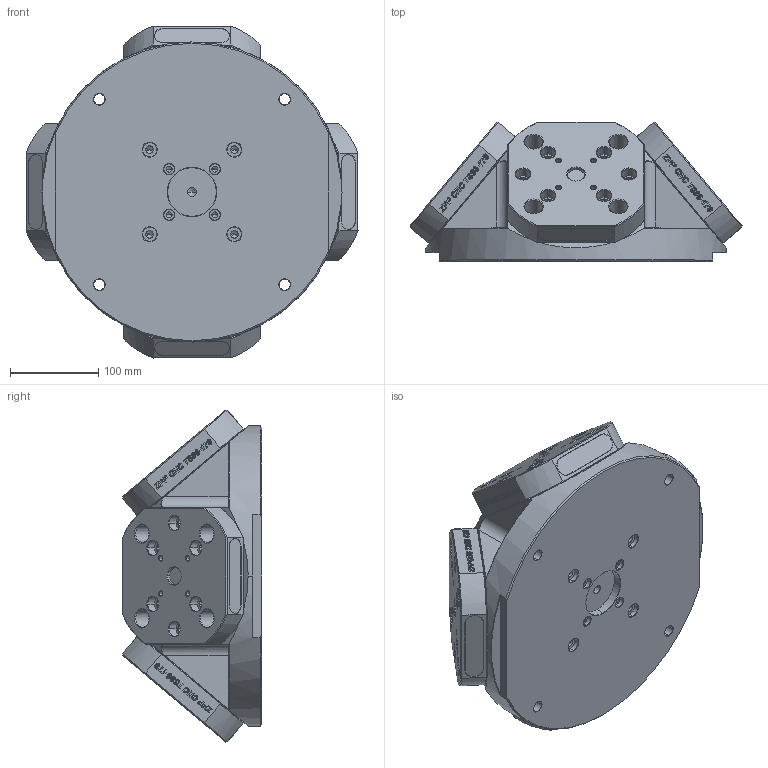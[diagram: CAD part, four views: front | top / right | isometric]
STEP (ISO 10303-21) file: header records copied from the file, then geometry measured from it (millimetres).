
FILE_DESCRIPTION((''),'2;1');
FILE_NAME('TS96-4PY_ASM','2025-05-06T14:48:26',('XF'),(''),'CREO PARAMETRIC BY PTC INC, 2023073','CREO PARAMETRIC BY PTC INC, 2023073','');
FILE_SCHEMA(('CONFIG_CONTROL_DESIGN'));
Length unit declared in the file: millimetre
Products named in the file (33): TS96-4PY_27_1; TS96-4PY_27_2; TS96-4PY_27_3; TS96-4PY_27_4; TS96-4PY_27_5; TS96-4PY_27_6; TS96-4PY_27_7; TS96-4PY_27_8; TS96-4PY_27_9; TS96-4PY_27_10; TS96-4PY_27_11; TS96-4PY_27_12; TS96-4PY_27_13; TS96-4PY_27_14; TS96-4PY_27_15; TS96-4PY_27_16; TS96-4PY_27_17; TS96-4PY_27_18; TS96-4PY_27_19; TS96-4PY_27_20; TS96-4PY_27_21; TS96-4PY_27_22; TS96-4PY_27_23; TS96-4PY_27_24; TS96-4PY_27_25; TS96-4PY_27_26; TS96-4PY_27_27; TS96-4PY_27_28; TS96-4PY_27_29; TS96-4PY_27_ASM; ASM0002_ASM; TS96-178; TS96-4PY_ASM
Assembly tree (35 placements, depth 4):
  TS96-4PY_ASM
    ASM0002_ASM
      TS96-4PY_27_ASM
        TS96-4PY_27_1
        TS96-4PY_27_2
        TS96-4PY_27_3
        TS96-4PY_27_4
        TS96-4PY_27_5
        TS96-4PY_27_6
        TS96-4PY_27_7
        TS96-4PY_27_8
        TS96-4PY_27_9
        TS96-4PY_27_10
        TS96-4PY_27_11
        TS96-4PY_27_12
        TS96-4PY_27_13
        TS96-4PY_27_14
        TS96-4PY_27_15
        TS96-4PY_27_16
        TS96-4PY_27_17
        TS96-4PY_27_18
        TS96-4PY_27_19
        TS96-4PY_27_20
        TS96-4PY_27_21
        TS96-4PY_27_22
        TS96-4PY_27_23
        TS96-4PY_27_24
        TS96-4PY_27_25
        TS96-4PY_27_26
        TS96-4PY_27_27
        TS96-4PY_27_28
        TS96-4PY_27_29
    TS96-178  x4
Bounding box: 376.23 x 157.62 x 376.23 mm (x, y, z)
Volume: 10111143.2 mm3; surface area: 603097.9 mm2
Topology: 33 solids, 49 shells, 3847 faces, 10272 edges, 6676 vertices
Faces by surface type: extrusion 1740, plane 1173, cylinder 448, cone 426, torus 48, bspline 12
Entity records: 52939 total; most frequent: CARTESIAN_POINT 15078, ORIENTED_EDGE 8284, DIRECTION 6128, EDGE_CURVE 4150, VECTOR 2766, VERTEX_POINT 2728, LINE 2130, B_SPLINE_CURVE_WITH_KNOTS 2030
